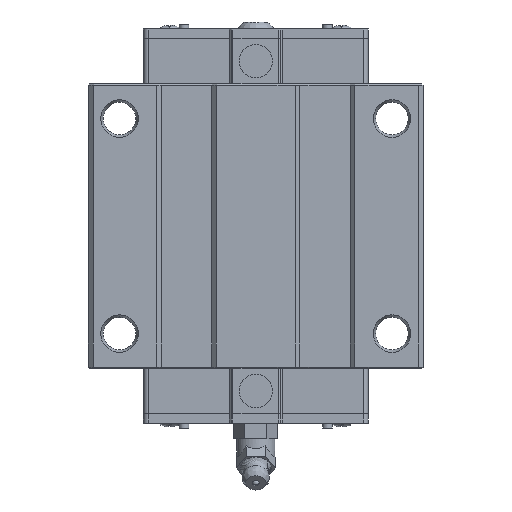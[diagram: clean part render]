
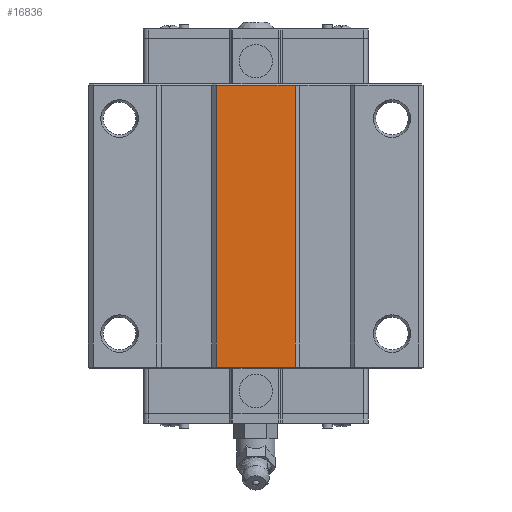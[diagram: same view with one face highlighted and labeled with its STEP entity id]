
A CAD part, front view. The second image highlights one B-rep face of the part: STEP entity #16836.
In plain terms, the highlighted planar face has unit normal (0, -1, 0).
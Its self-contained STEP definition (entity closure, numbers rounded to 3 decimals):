
#702 = ORIENTED_EDGE ( 'NONE', *, *, #23861, .T. ) ;
#2562 = CARTESIAN_POINT ( 'NONE',  ( -8.25, 3.8, 29.5 ) ) ;
#4117 = CARTESIAN_POINT ( 'NONE',  ( -8.25, 3.8, -29.5 ) ) ;
#4306 = LINE ( 'NONE', #17340, #26796 ) ;
#4596 = DIRECTION ( 'NONE',  ( 1., 0., 0. ) ) ;
#6279 = EDGE_CURVE ( 'NONE', #22137, #11514, #19196, .T. ) ;
#7060 = EDGE_CURVE ( 'NONE', #8313, #13619, #7856, .T. ) ;
#7856 = LINE ( 'NONE', #24099, #18769 ) ;
#8313 = VERTEX_POINT ( 'NONE', #14851 ) ;
#9215 = DIRECTION ( 'NONE',  ( 0., 1., 0. ) ) ;
#9818 = EDGE_LOOP ( 'NONE', ( #19914, #11834, #21845, #702 ) ) ;
#9916 = LINE ( 'NONE', #19844, #15684 ) ;
#11514 = VERTEX_POINT ( 'NONE', #2562 ) ;
#11834 = ORIENTED_EDGE ( 'NONE', *, *, #15605, .T. ) ;
#13619 = VERTEX_POINT ( 'NONE', #26977 ) ;
#14851 = CARTESIAN_POINT ( 'NONE',  ( 8.25, 3.8, -29.5 ) ) ;
#15605 = EDGE_CURVE ( 'NONE', #22137, #8313, #9916, .T. ) ;
#15684 = VECTOR ( 'NONE', #4596, 1000. ) ;
#16836 = ADVANCED_FACE ( 'NONE', ( #25446 ), #24330, .F. ) ;
#17340 = CARTESIAN_POINT ( 'NONE',  ( -8.25, 3.8, 29.5 ) ) ;
#18769 = VECTOR ( 'NONE', #26312, 1000. ) ;
#19196 = LINE ( 'NONE', #24645, #24969 ) ;
#19531 = DIRECTION ( 'NONE',  ( -1., 0., 0. ) ) ;
#19844 = CARTESIAN_POINT ( 'NONE',  ( -8.25, 3.8, -29.5 ) ) ;
#19914 = ORIENTED_EDGE ( 'NONE', *, *, #6279, .F. ) ;
#21845 = ORIENTED_EDGE ( 'NONE', *, *, #7060, .T. ) ;
#22137 = VERTEX_POINT ( 'NONE', #4117 ) ;
#22222 = CARTESIAN_POINT ( 'NONE',  ( -8.25, 3.8, -29.75 ) ) ;
#22523 = DIRECTION ( 'NONE',  ( 0., 0., 1. ) ) ;
#23861 = EDGE_CURVE ( 'NONE', #13619, #11514, #4306, .T. ) ;
#24099 = CARTESIAN_POINT ( 'NONE',  ( 8.25, 3.8, -29.75 ) ) ;
#24330 = PLANE ( 'NONE',  #25214 ) ;
#24421 = DIRECTION ( 'NONE',  ( -1., 0., 0. ) ) ;
#24645 = CARTESIAN_POINT ( 'NONE',  ( -8.25, 3.8, -29.75 ) ) ;
#24969 = VECTOR ( 'NONE', #22523, 1000. ) ;
#25214 = AXIS2_PLACEMENT_3D ( 'NONE', #22222, #9215, #24421 ) ;
#25446 = FACE_OUTER_BOUND ( 'NONE', #9818, .T. ) ;
#26312 = DIRECTION ( 'NONE',  ( 0., 0., 1. ) ) ;
#26796 = VECTOR ( 'NONE', #19531, 1000. ) ;
#26977 = CARTESIAN_POINT ( 'NONE',  ( 8.25, 3.8, 29.5 ) ) ;
